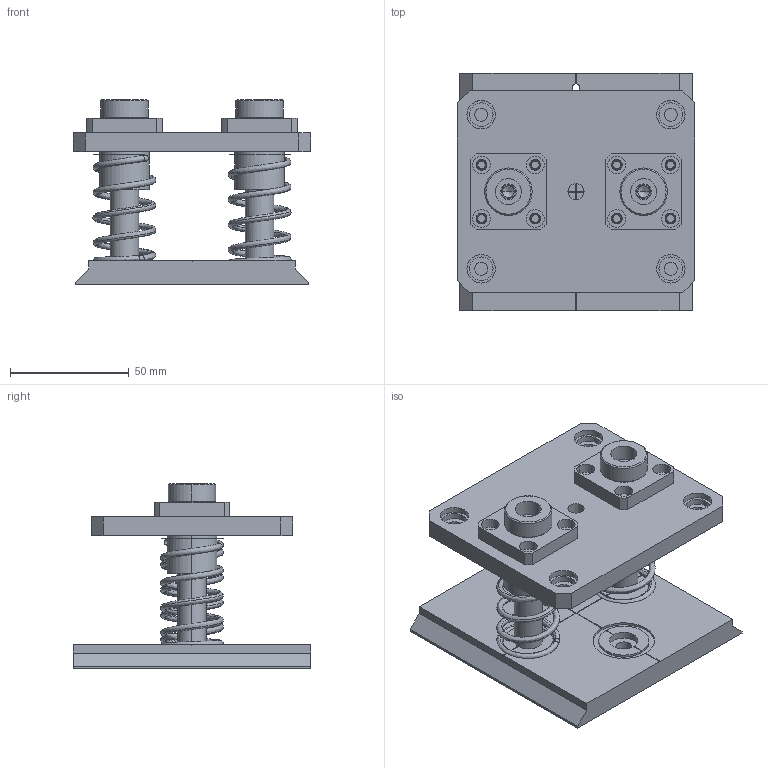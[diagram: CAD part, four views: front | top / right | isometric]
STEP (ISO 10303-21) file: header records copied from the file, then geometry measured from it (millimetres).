
FILE_DESCRIPTION (( 'STEP AP203' ), '1' );
FILE_NAME ('QCS100-B.STEP', '2023-12-27T09:12:06', ( '微软用户' ), ( '微软中国' ), 'SwSTEP 2.0', 'SolidWorks 2018', '' );
FILE_SCHEMA (( 'CONFIG_CONTROL_DESIGN' ));
Length unit declared in the file: millimetre
Products named in the file (1): QCS100-B
Bounding box: 100 x 100 x 78 mm (x, y, z)
Surface area: 61163.8 mm2 (no closed solid volume)
Topology: 0 solids, 9 shells, 369 faces, 853 edges, 535 vertices
Faces by surface type: cylinder 160, plane 133, cone 60, bspline 16
Entity records: 22012 total; most frequent: CARTESIAN_POINT 13556, DIRECTION 1811, ORIENTED_EDGE 1682, EDGE_CURVE 845, AXIS2_PLACEMENT_3D 740, VERTEX_POINT 535, EDGE_LOOP 456, CIRCLE 386
